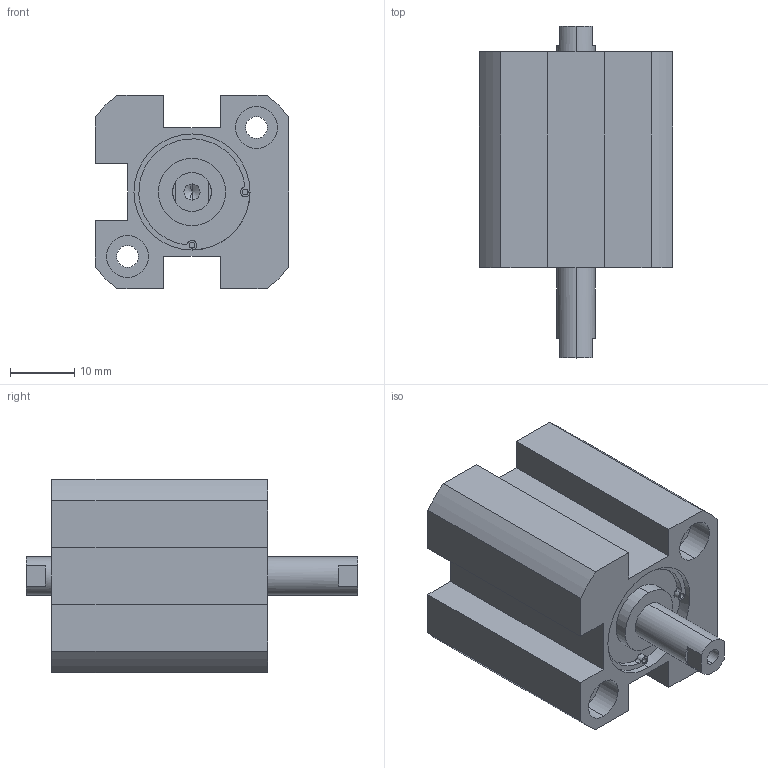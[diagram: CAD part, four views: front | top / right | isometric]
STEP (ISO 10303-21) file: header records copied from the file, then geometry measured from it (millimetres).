
FILE_DESCRIPTION (( 'STEP AP203' ), '1' );
FILE_NAME ('XC#7-16-10.STEP', '2016-05-23T08:19:30', ( '' ), ( '' ), 'SwSTEP 2.0', 'SolidWorks 2014', '' );
FILE_SCHEMA (( 'CONFIG_CONTROL_DESIGN' ));
Length unit declared in the file: millimetre
Products named in the file (1): XC#7-16-10
Bounding box: 30 x 51.5 x 30 mm (x, y, z)
Volume: 23509.2 mm3; surface area: 8239 mm2
Topology: 1 solids, 1 shells, 108 faces, 266 edges, 170 vertices
Faces by surface type: cylinder 58, plane 42, cone 8
Entity records: 3265 total; most frequent: DIRECTION 602, CARTESIAN_POINT 537, ORIENTED_EDGE 516, EDGE_CURVE 258, AXIS2_PLACEMENT_3D 235, VERTEX_POINT 170, LINE 132, VECTOR 132
